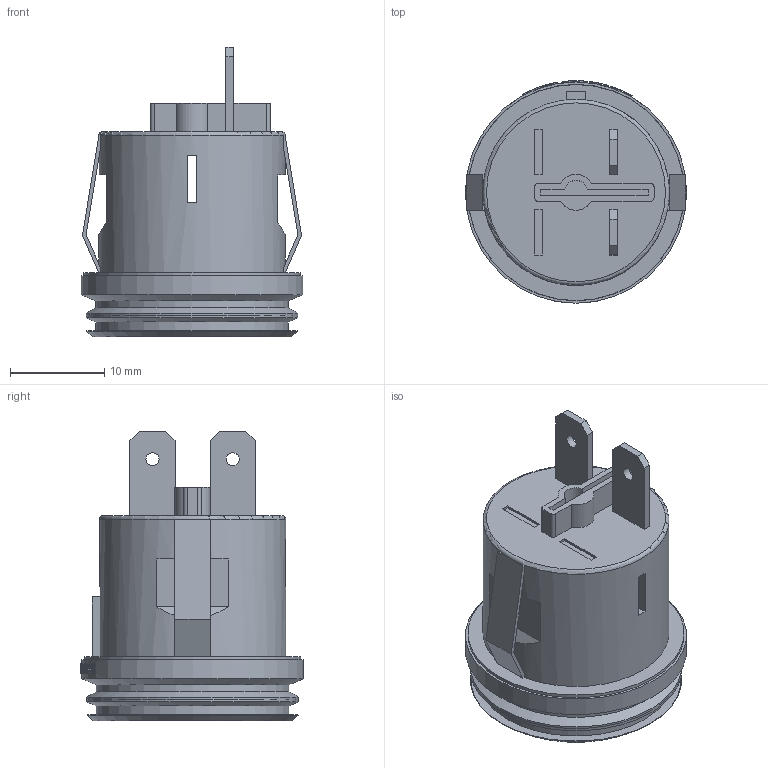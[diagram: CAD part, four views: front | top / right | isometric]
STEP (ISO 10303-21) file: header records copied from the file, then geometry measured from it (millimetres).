
FILE_DESCRIPTION(/* description */ (''),/* implementation_level */ '2;1');
FILE_NAME(/* name */ 'C:\Users\Hani\Desktop\work\PB-1B-DC-2-B\PB-1B-DC-2-B.stp',/* time_stamp */ '2021-03-16T18:14:16-07:00',/* author */ ('Hani'),/* organization */ (''),/* preprocessor_version */ 'ST-DEVELOPER v17',/* originating_system */ 'Autodesk Inventor 2019',/* authorisation */ '');
FILE_SCHEMA (('AUTOMOTIVE_DESIGN { 1 0 10303 214 3 1 1 }'));
Length unit declared in the file: inch
Products named in the file (2): push switch assembly; push_switch
Assembly tree (1 placements, depth 2):
  push switch assembly
    push_switch
Bounding box: 23.54 x 23.67 x 30.85 mm (x, y, z)
Volume: 3381.8 mm3; surface area: 6128.1 mm2
Topology: 2 solids, 3 shells, 380 faces, 1046 edges, 698 vertices
Faces by surface type: plane 183, bspline 143, cylinder 43, cone 9, torus 2
Full cylindrical faces by diameter (mm): 1.4 x2, 14.72 x1, 19.8 x1, 19.996 x2, 20.504 x2, 21.984 x1, 22.522 x1, 23 x1, 23.03 x1, 23.538 x1
Entity records: 15740 total; most frequent: CARTESIAN_POINT 6750, ORIENTED_EDGE 2092, DIRECTION 1440, EDGE_CURVE 1046, VERTEX_POINT 698, LINE 560, VECTOR 560, AXIS2_PLACEMENT_3D 440
